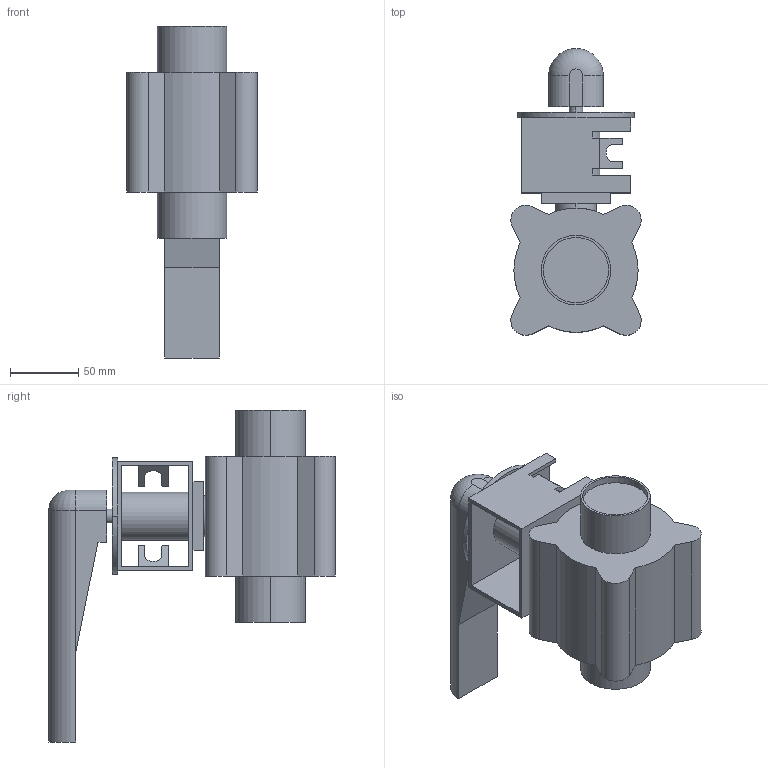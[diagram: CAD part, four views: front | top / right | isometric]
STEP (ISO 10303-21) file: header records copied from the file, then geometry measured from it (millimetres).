
FILE_DESCRIPTION(('Creo Elements/Direct Modeling STEP Export'),'2;1');
FILE_NAME('BLV1-2T-HL-12S.stp','2019-05-10T 8:19:52',(''),(''),'Creo Elements/Direct Modeling STEP processor for AP214 (Solid Model)','Creo Elements/Direct Modeling 19.0F 14-Feb-2017 (C) Parametric Technology GmbH','');
FILE_SCHEMA(('AUTOMOTIVE_DESIGN { 1 0 10303 214 1 1 1 1 }'));
Length unit declared in the file: millimetre
Products named in the file (2): BLV1-2T-HL-12S
Assembly tree (1 placements, depth 2):
  BLV1-2T-HL-12S
    BLV1-2T-HL-12S
Bounding box: 95.12 x 209.56 x 242.5 mm (x, y, z)
Volume: 1137209.5 mm3; surface area: 132135.6 mm2
Topology: 1 solids, 1 shells, 100 faces, 258 edges, 168 vertices
Faces by surface type: plane 70, cylinder 29, torus 1
Entity records: 2973 total; most frequent: CARTESIAN_POINT 565, ORIENTED_EDGE 516, DIRECTION 457, EDGE_CURVE 258, VECTOR 183, LINE 183, VERTEX_POINT 168, AXIS2_PLACEMENT_3D 137
